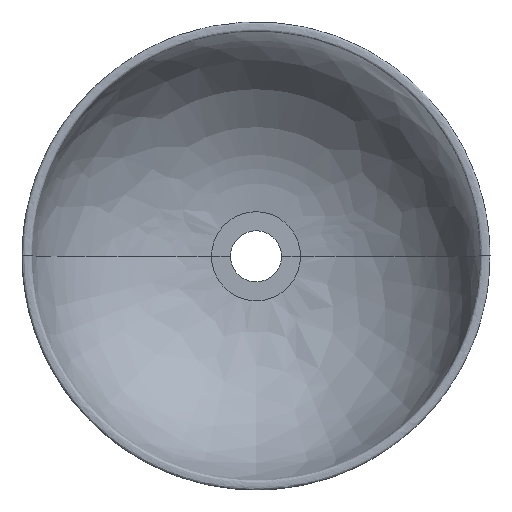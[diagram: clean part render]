
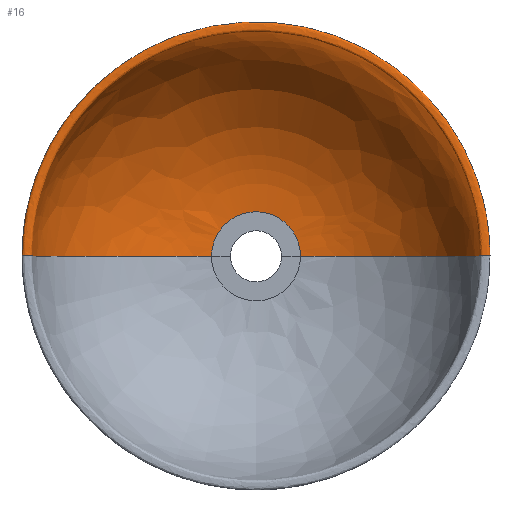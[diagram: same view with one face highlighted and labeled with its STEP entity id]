
A CAD part, top view. The second image highlights one B-rep face of the part: STEP entity #16.
In plain terms, the highlighted free-form (B-spline) face has degree [2, 2] with [11, 5] control points.
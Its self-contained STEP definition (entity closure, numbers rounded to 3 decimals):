
#16=ADVANCED_FACE('',(#28),#160,.T.);
#28=FACE_OUTER_BOUND('',#40,.T.);
#40=EDGE_LOOP('',(#55,#56,#57,#58));
#55=ORIENTED_EDGE('',*,*,#99,.F.);
#56=ORIENTED_EDGE('',*,*,#100,.T.);
#57=ORIENTED_EDGE('',*,*,#106,.T.);
#58=ORIENTED_EDGE('',*,*,#114,.F.);
#99=EDGE_CURVE('',#147,#154,#129,.T.);
#100=EDGE_CURVE('',#147,#152,#130,.T.);
#106=EDGE_CURVE('',#152,#155,#133,.T.);
#114=EDGE_CURVE('',#154,#155,#141,.T.);
#129=(
BOUNDED_CURVE()
B_SPLINE_CURVE(2,(#519,#520,#521,#522,#523),.UNSPECIFIED.,.F.,.F.)
B_SPLINE_CURVE_WITH_KNOTS((3,2,3),(0.,1.571,3.142),
 .UNSPECIFIED.)
CURVE()
GEOMETRIC_REPRESENTATION_ITEM()
RATIONAL_B_SPLINE_CURVE((1.,0.707,1.,0.707,1.))
REPRESENTATION_ITEM('')
);
#130=(
BOUNDED_CURVE()
B_SPLINE_CURVE(2,(#524,#525,#526,#527,#528,#529,#530,#531,#532,#533,#534),
 .UNSPECIFIED.,.F.,.F.)
B_SPLINE_CURVE_WITH_KNOTS((3,2,2,2,2,3),(61.894,62.152,
62.41,62.796,63.242,90.029),
 .UNSPECIFIED.)
CURVE()
GEOMETRIC_REPRESENTATION_ITEM()
RATIONAL_B_SPLINE_CURVE((1.,0.909,1.,0.909,1.,1.,
1.,0.736,1.,0.755,1.))
REPRESENTATION_ITEM('')
);
#133=(
BOUNDED_CURVE()
B_SPLINE_CURVE(2,(#555,#556,#557,#558,#559),.UNSPECIFIED.,.F.,.F.)
B_SPLINE_CURVE_WITH_KNOTS((3,2,3),(0.,1.571,3.142),
 .UNSPECIFIED.)
CURVE()
GEOMETRIC_REPRESENTATION_ITEM()
RATIONAL_B_SPLINE_CURVE((1.,0.707,1.,0.707,1.))
REPRESENTATION_ITEM('')
);
#141=(
BOUNDED_CURVE()
B_SPLINE_CURVE(2,(#597,#598,#599,#600,#601,#602,#603,#604,#605,#606,#607),
 .UNSPECIFIED.,.F.,.F.)
B_SPLINE_CURVE_WITH_KNOTS((3,2,2,2,2,3),(61.894,62.152,
62.41,62.796,63.242,90.029),
 .UNSPECIFIED.)
CURVE()
GEOMETRIC_REPRESENTATION_ITEM()
RATIONAL_B_SPLINE_CURVE((1.,0.909,1.,0.909,1.,1.,
1.,0.736,1.,0.755,1.))
REPRESENTATION_ITEM('')
);
#147=VERTEX_POINT('',#507);
#152=VERTEX_POINT('',#512);
#154=VERTEX_POINT('',#514);
#155=VERTEX_POINT('',#515);
#160=(
BOUNDED_SURFACE()
B_SPLINE_SURFACE(2,2,((#232,#233,#234,#235,#236),(#237,#238,#239,#240,#241),
(#242,#243,#244,#245,#246),(#247,#248,#249,#250,#251),(#252,#253,#254,#255,
#256),(#257,#258,#259,#260,#261),(#262,#263,#264,#265,#266),(#267,#268,
#269,#270,#271),(#272,#273,#274,#275,#276),(#277,#278,#279,#280,#281),(#282,
#283,#284,#285,#286)),.UNSPECIFIED.,.F.,.F.,.F.)
B_SPLINE_SURFACE_WITH_KNOTS((3,2,2,2,2,3),(3,2,3),(61.894,62.152,
62.41,62.796,63.242,90.029),(0.,
1.571,3.142),.UNSPECIFIED.)
GEOMETRIC_REPRESENTATION_ITEM()
RATIONAL_B_SPLINE_SURFACE(((1.,0.707,1.,0.707,1.),
(0.909,0.643,0.909,0.643,
0.909),(1.,0.707,1.,0.707,1.),(0.909,
0.643,0.909,0.643,0.909),
(1.,0.707,1.,0.707,1.),(1.,0.707,1.,
0.707,1.),(1.,0.707,1.,0.707,1.),(0.736,
0.521,0.736,0.521,0.736),
(1.,0.707,1.,0.707,1.),(0.755,0.534,
0.755,0.534,0.755),(1.,0.707,
1.,0.707,1.)))
REPRESENTATION_ITEM('')
SURFACE()
);
#232=CARTESIAN_POINT('',(-20.876,-0.304,24.054));
#233=CARTESIAN_POINT('',(-20.876,18.696,24.054));
#234=CARTESIAN_POINT('',(-1.876,18.696,24.054));
#235=CARTESIAN_POINT('',(17.124,18.696,24.054));
#236=CARTESIAN_POINT('',(17.124,-0.304,24.054));
#237=CARTESIAN_POINT('',(-20.892,-0.304,24.166));
#238=CARTESIAN_POINT('',(-20.892,18.713,24.166));
#239=CARTESIAN_POINT('',(-1.876,18.713,24.166));
#240=CARTESIAN_POINT('',(17.141,18.713,24.166));
#241=CARTESIAN_POINT('',(17.141,-0.304,24.166));
#242=CARTESIAN_POINT('',(-20.818,-0.304,24.252));
#243=CARTESIAN_POINT('',(-20.818,18.638,24.252));
#244=CARTESIAN_POINT('',(-1.876,18.638,24.252));
#245=CARTESIAN_POINT('',(17.067,18.638,24.252));
#246=CARTESIAN_POINT('',(17.067,-0.304,24.252));
#247=CARTESIAN_POINT('',(-20.744,-0.304,24.339));
#248=CARTESIAN_POINT('',(-20.744,18.564,24.339));
#249=CARTESIAN_POINT('',(-1.876,18.564,24.339));
#250=CARTESIAN_POINT('',(16.992,18.564,24.339));
#251=CARTESIAN_POINT('',(16.992,-0.304,24.339));
#252=CARTESIAN_POINT('',(-20.63,-0.304,24.339));
#253=CARTESIAN_POINT('',(-20.63,18.45,24.339));
#254=CARTESIAN_POINT('',(-1.876,18.45,24.339));
#255=CARTESIAN_POINT('',(16.879,18.45,24.339));
#256=CARTESIAN_POINT('',(16.879,-0.304,24.339));
#257=CARTESIAN_POINT('',(-20.47,-0.304,24.339));
#258=CARTESIAN_POINT('',(-20.47,18.29,24.339));
#259=CARTESIAN_POINT('',(-1.876,18.29,24.339));
#260=CARTESIAN_POINT('',(16.719,18.29,24.339));
#261=CARTESIAN_POINT('',(16.719,-0.304,24.339));
#262=CARTESIAN_POINT('',(-20.31,-0.304,24.339));
#263=CARTESIAN_POINT('',(-20.31,18.131,24.339));
#264=CARTESIAN_POINT('',(-1.876,18.131,24.339));
#265=CARTESIAN_POINT('',(16.559,18.131,24.339));
#266=CARTESIAN_POINT('',(16.559,-0.304,24.339));
#267=CARTESIAN_POINT('',(-20.082,-0.304,24.339));
#268=CARTESIAN_POINT('',(-20.082,17.902,24.339));
#269=CARTESIAN_POINT('',(-1.876,17.902,24.339));
#270=CARTESIAN_POINT('',(16.331,17.902,24.339));
#271=CARTESIAN_POINT('',(16.331,-0.304,24.339));
#272=CARTESIAN_POINT('',(-20.063,-0.304,24.111));
#273=CARTESIAN_POINT('',(-20.063,17.883,24.111));
#274=CARTESIAN_POINT('',(-1.876,17.883,24.111));
#275=CARTESIAN_POINT('',(16.312,17.883,24.111));
#276=CARTESIAN_POINT('',(16.312,-0.304,24.111));
#277=CARTESIAN_POINT('',(-18.931,-0.304,10.694));
#278=CARTESIAN_POINT('',(-18.931,16.751,10.694));
#279=CARTESIAN_POINT('',(-1.876,16.751,10.694));
#280=CARTESIAN_POINT('',(15.18,16.751,10.694));
#281=CARTESIAN_POINT('',(15.18,-0.304,10.694));
#282=CARTESIAN_POINT('',(-5.487,-0.304,9.934));
#283=CARTESIAN_POINT('',(-5.487,3.308,9.934));
#284=CARTESIAN_POINT('',(-1.876,3.308,9.934));
#285=CARTESIAN_POINT('',(1.736,3.308,9.934));
#286=CARTESIAN_POINT('',(1.736,-0.304,9.934));
#507=CARTESIAN_POINT('',(-20.876,-0.304,24.054));
#512=CARTESIAN_POINT('',(-5.487,-0.304,9.934));
#514=CARTESIAN_POINT('',(17.124,-0.304,24.054));
#515=CARTESIAN_POINT('',(1.736,-0.304,9.934));
#519=CARTESIAN_POINT('',(-20.876,-0.304,24.054));
#520=CARTESIAN_POINT('',(-20.876,18.696,24.054));
#521=CARTESIAN_POINT('',(-1.876,18.696,24.054));
#522=CARTESIAN_POINT('',(17.124,18.696,24.054));
#523=CARTESIAN_POINT('',(17.124,-0.304,24.054));
#524=CARTESIAN_POINT('',(-20.876,-0.304,24.054));
#525=CARTESIAN_POINT('',(-20.892,-0.304,24.166));
#526=CARTESIAN_POINT('',(-20.818,-0.304,24.252));
#527=CARTESIAN_POINT('',(-20.744,-0.304,24.339));
#528=CARTESIAN_POINT('',(-20.63,-0.304,24.339));
#529=CARTESIAN_POINT('',(-20.47,-0.304,24.339));
#530=CARTESIAN_POINT('',(-20.31,-0.304,24.339));
#531=CARTESIAN_POINT('',(-20.082,-0.304,24.339));
#532=CARTESIAN_POINT('',(-20.063,-0.304,24.111));
#533=CARTESIAN_POINT('',(-18.931,-0.304,10.694));
#534=CARTESIAN_POINT('',(-5.487,-0.304,9.934));
#555=CARTESIAN_POINT('',(-5.487,-0.304,9.934));
#556=CARTESIAN_POINT('',(-5.487,3.308,9.934));
#557=CARTESIAN_POINT('',(-1.876,3.308,9.934));
#558=CARTESIAN_POINT('',(1.736,3.308,9.934));
#559=CARTESIAN_POINT('',(1.736,-0.304,9.934));
#597=CARTESIAN_POINT('',(17.124,-0.304,24.054));
#598=CARTESIAN_POINT('',(17.141,-0.304,24.166));
#599=CARTESIAN_POINT('',(17.067,-0.304,24.252));
#600=CARTESIAN_POINT('',(16.992,-0.304,24.339));
#601=CARTESIAN_POINT('',(16.879,-0.304,24.339));
#602=CARTESIAN_POINT('',(16.719,-0.304,24.339));
#603=CARTESIAN_POINT('',(16.559,-0.304,24.339));
#604=CARTESIAN_POINT('',(16.331,-0.304,24.339));
#605=CARTESIAN_POINT('',(16.312,-0.304,24.111));
#606=CARTESIAN_POINT('',(15.18,-0.304,10.694));
#607=CARTESIAN_POINT('',(1.736,-0.304,9.934));
